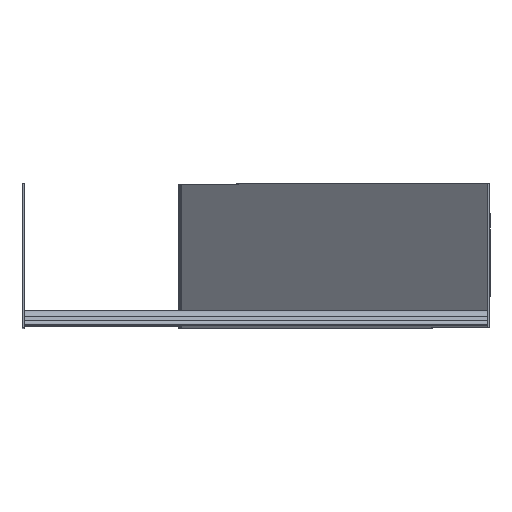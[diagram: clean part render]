
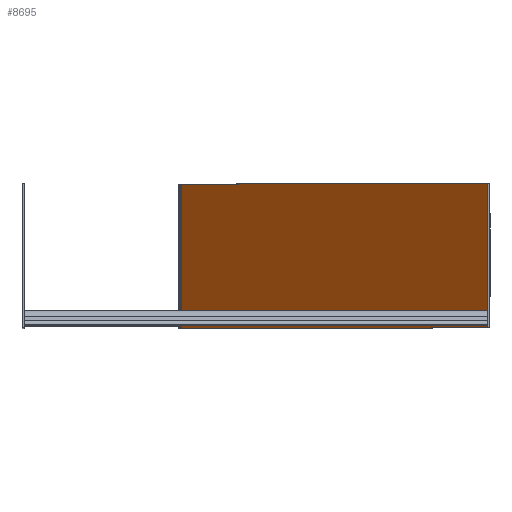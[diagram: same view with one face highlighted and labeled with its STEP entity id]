
A CAD part, top view. The second image highlights one B-rep face of the part: STEP entity #8695.
In plain terms, the highlighted planar face has unit normal (-0.682, 0, 0.731).
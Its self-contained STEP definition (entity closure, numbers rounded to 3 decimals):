
#304 = CARTESIAN_POINT ( 'NONE',  ( 374.523, 0., -0.445 ) ) ;
#376 = CARTESIAN_POINT ( 'NONE',  ( 374.523, 140., -0.445 ) ) ;
#432 = ORIENTED_EDGE ( 'NONE', *, *, #4974, .F. ) ;
#545 = CARTESIAN_POINT ( 'NONE',  ( 375., 140., 0. ) ) ;
#1124 = CARTESIAN_POINT ( 'NONE',  ( 375., 0., 0. ) ) ;
#1658 = AXIS2_PLACEMENT_3D ( 'NONE', #5238, #6665, #8297 ) ;
#1771 = EDGE_CURVE ( 'NONE', #2476, #3833, #4728, .T. ) ;
#2058 = DIRECTION ( 'NONE',  ( 0., 1., 0. ) ) ;
#2066 = EDGE_CURVE ( 'NONE', #4950, #2476, #2107, .T. ) ;
#2107 = LINE ( 'NONE', #5612, #9093 ) ;
#2143 = LINE ( 'NONE', #7152, #3836 ) ;
#2476 = VERTEX_POINT ( 'NONE', #376 ) ;
#2644 = CARTESIAN_POINT ( 'NONE',  ( 76.112, 140., -278.962 ) ) ;
#2913 = CARTESIAN_POINT ( 'NONE',  ( 76.112, 0., -278.962 ) ) ;
#3109 = DIRECTION ( 'NONE',  ( -0.731, 0., -0.682 ) ) ;
#3112 = VECTOR ( 'NONE', #3109, 1000. ) ;
#3453 = ORIENTED_EDGE ( 'NONE', *, *, #3525, .F. ) ;
#3525 = EDGE_CURVE ( 'NONE', #5546, #3833, #2143, .T. ) ;
#3818 = PLANE ( 'NONE',  #1658 ) ;
#3833 = VERTEX_POINT ( 'NONE', #2644 ) ;
#3836 = VECTOR ( 'NONE', #6337, 1000. ) ;
#3952 = DIRECTION ( 'NONE',  ( -0.731, 0., -0.682 ) ) ;
#4552 = FACE_OUTER_BOUND ( 'NONE', #6622, .T. ) ;
#4581 = ORIENTED_EDGE ( 'NONE', *, *, #1771, .T. ) ;
#4728 = LINE ( 'NONE', #545, #8648 ) ;
#4950 = VERTEX_POINT ( 'NONE', #304 ) ;
#4974 = EDGE_CURVE ( 'NONE', #4950, #5546, #7382, .T. ) ;
#5238 = CARTESIAN_POINT ( 'NONE',  ( 375., 140., 0. ) ) ;
#5546 = VERTEX_POINT ( 'NONE', #2913 ) ;
#5612 = CARTESIAN_POINT ( 'NONE',  ( 374.523, 0., -0.445 ) ) ;
#6337 = DIRECTION ( 'NONE',  ( 0., 1., 0. ) ) ;
#6622 = EDGE_LOOP ( 'NONE', ( #3453, #432, #7001, #4581 ) ) ;
#6665 = DIRECTION ( 'NONE',  ( -0.682, 0., 0.731 ) ) ;
#7001 = ORIENTED_EDGE ( 'NONE', *, *, #2066, .T. ) ;
#7152 = CARTESIAN_POINT ( 'NONE',  ( 76.112, 0., -278.962 ) ) ;
#7382 = LINE ( 'NONE', #1124, #3112 ) ;
#8297 = DIRECTION ( 'NONE',  ( 0.731, 0., 0.682 ) ) ;
#8648 = VECTOR ( 'NONE', #3952, 1000. ) ;
#8695 = ADVANCED_FACE ( 'NONE', ( #4552 ), #3818, .T. ) ;
#9093 = VECTOR ( 'NONE', #2058, 1000. ) ;
